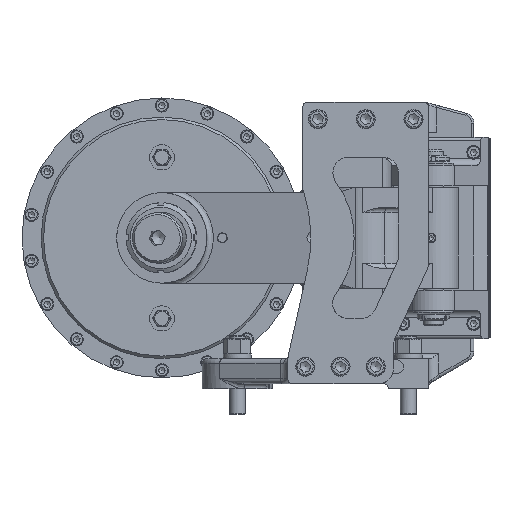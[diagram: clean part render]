
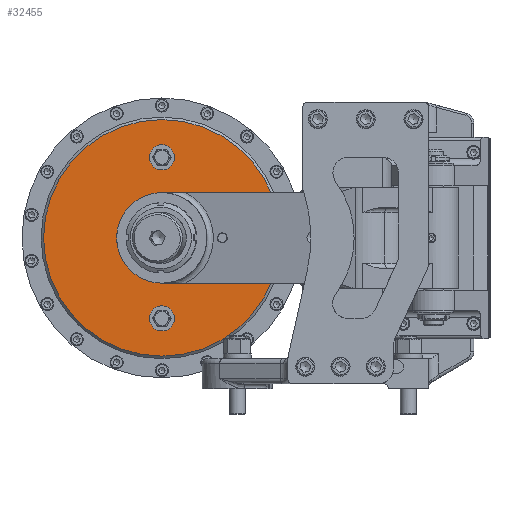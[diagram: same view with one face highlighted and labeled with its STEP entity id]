
A CAD part, left-side view. The second image highlights one B-rep face of the part: STEP entity #32455.
In plain terms, the highlighted planar face has unit normal (-1, 0, 0).
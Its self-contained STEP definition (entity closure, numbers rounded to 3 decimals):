
#1026=FACE_BOUND('',#4183,.T.);
#1027=FACE_BOUND('',#4184,.T.);
#1028=FACE_BOUND('',#4185,.T.);
#1290=PLANE('',#34321);
#2385=FACE_OUTER_BOUND('',#4182,.T.);
#4182=EDGE_LOOP('',(#20823));
#4183=EDGE_LOOP('',(#20824,#20825));
#4184=EDGE_LOOP('',(#20826,#20827));
#4185=EDGE_LOOP('',(#20828,#20829));
#10823=CIRCLE('',#34322,117.5);
#10824=CIRCLE('',#34323,12.5);
#10825=CIRCLE('',#34324,12.5);
#10826=CIRCLE('',#34325,12.5);
#10827=CIRCLE('',#34326,12.5);
#10828=CIRCLE('',#34327,45.);
#10829=CIRCLE('',#34328,45.);
#12633=VERTEX_POINT('',#47654);
#12634=VERTEX_POINT('',#47656);
#12635=VERTEX_POINT('',#47657);
#12636=VERTEX_POINT('',#47660);
#12637=VERTEX_POINT('',#47661);
#12638=VERTEX_POINT('',#47664);
#12639=VERTEX_POINT('',#47665);
#15871=EDGE_CURVE('',#12633,#12633,#10823,.T.);
#15872=EDGE_CURVE('',#12634,#12635,#10824,.T.);
#15873=EDGE_CURVE('',#12635,#12634,#10825,.T.);
#15874=EDGE_CURVE('',#12636,#12637,#10826,.T.);
#15875=EDGE_CURVE('',#12637,#12636,#10827,.T.);
#15876=EDGE_CURVE('',#12638,#12639,#10828,.T.);
#15877=EDGE_CURVE('',#12639,#12638,#10829,.T.);
#20823=ORIENTED_EDGE('',*,*,#15871,.F.);
#20824=ORIENTED_EDGE('',*,*,#15872,.T.);
#20825=ORIENTED_EDGE('',*,*,#15873,.T.);
#20826=ORIENTED_EDGE('',*,*,#15874,.T.);
#20827=ORIENTED_EDGE('',*,*,#15875,.T.);
#20828=ORIENTED_EDGE('',*,*,#15876,.F.);
#20829=ORIENTED_EDGE('',*,*,#15877,.F.);
#32455=ADVANCED_FACE('',(#2385,#1026,#1027,#1028),#1290,.T.);
#34321=AXIS2_PLACEMENT_3D('',#47653,#38095,#38096);
#34322=AXIS2_PLACEMENT_3D('',#47655,#38097,#38098);
#34323=AXIS2_PLACEMENT_3D('',#47658,#38099,#38100);
#34324=AXIS2_PLACEMENT_3D('',#47659,#38101,#38102);
#34325=AXIS2_PLACEMENT_3D('',#47662,#38103,#38104);
#34326=AXIS2_PLACEMENT_3D('',#47663,#38105,#38106);
#34327=AXIS2_PLACEMENT_3D('',#47666,#38107,#38108);
#34328=AXIS2_PLACEMENT_3D('',#47667,#38109,#38110);
#38095=DIRECTION('center_axis',(-1.,0.,0.));
#38096=DIRECTION('ref_axis',(0.,-1.,0.));
#38097=DIRECTION('center_axis',(1.,0.,0.));
#38098=DIRECTION('ref_axis',(0.,0.,
-1.));
#38099=DIRECTION('center_axis',(1.,0.,0.));
#38100=DIRECTION('ref_axis',(0.,-1.,0.));
#38101=DIRECTION('center_axis',(1.,0.,0.));
#38102=DIRECTION('ref_axis',(0.,-1.,0.));
#38103=DIRECTION('center_axis',(1.,0.,0.));
#38104=DIRECTION('ref_axis',(0.,1.,0.));
#38105=DIRECTION('center_axis',(1.,0.,0.));
#38106=DIRECTION('ref_axis',(0.,1.,0.));
#38107=DIRECTION('center_axis',(-1.,0.,0.));
#38108=DIRECTION('ref_axis',(0.,0.,
1.));
#38109=DIRECTION('center_axis',(-1.,0.,0.));
#38110=DIRECTION('ref_axis',(0.,0.,
1.));
#47653=CARTESIAN_POINT('Origin',(97.1,310.,223.));
#47654=CARTESIAN_POINT('',(97.1,310.,267.5));
#47655=CARTESIAN_POINT('Origin',(97.1,310.,150.));
#47656=CARTESIAN_POINT('',(97.1,297.5,230.));
#47657=CARTESIAN_POINT('',(97.1,322.5,230.));
#47658=CARTESIAN_POINT('Origin',(97.1,310.,230.));
#47659=CARTESIAN_POINT('Origin',(97.1,310.,230.));
#47660=CARTESIAN_POINT('',(97.1,322.5,70.));
#47661=CARTESIAN_POINT('',(97.1,297.5,70.));
#47662=CARTESIAN_POINT('Origin',(97.1,310.,70.));
#47663=CARTESIAN_POINT('Origin',(97.1,310.,70.));
#47664=CARTESIAN_POINT('',(97.1,310.,105.));
#47665=CARTESIAN_POINT('',(97.1,310.,195.));
#47666=CARTESIAN_POINT('Origin',(97.1,310.,150.));
#47667=CARTESIAN_POINT('Origin',(97.1,310.,150.));
